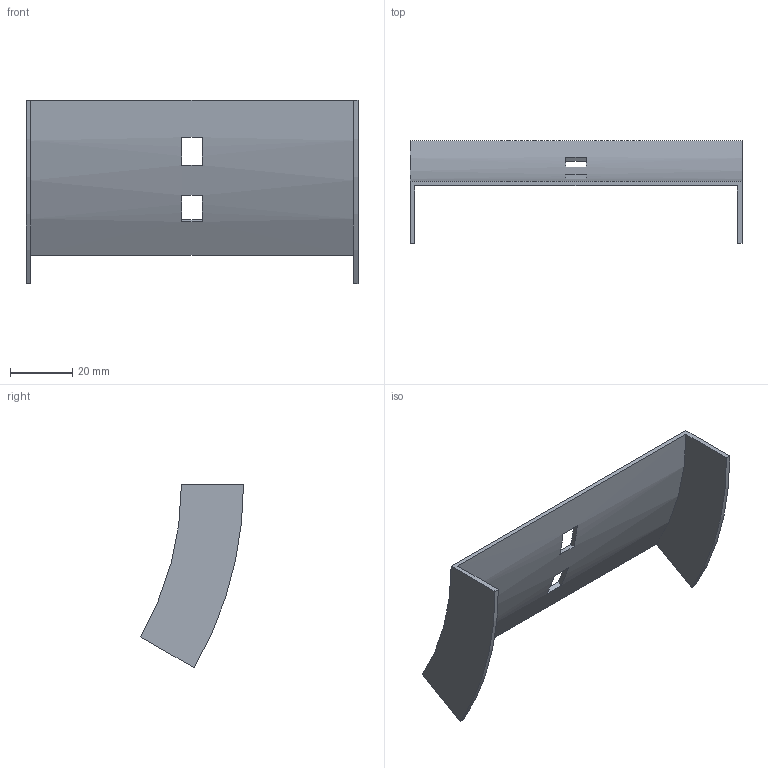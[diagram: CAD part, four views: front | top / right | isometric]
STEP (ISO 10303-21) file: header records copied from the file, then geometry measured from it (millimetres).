
FILE_DESCRIPTION (( 'STEP AP214' ), '1' );
FILE_NAME ('32N1R100.step', '2025-02-21T09:22:15', ( '' ), ( '' ), 'SwSTEP 2.0', 'SolidWorks 2023', '' );
FILE_SCHEMA (( 'AUTOMOTIVE_DESIGN' ));
Length unit declared in the file: millimetre
Products named in the file (1): 32N1R100
Bounding box: 107 x 33.2 x 59.25 mm (x, y, z)
Volume: 11337.5 mm3; surface area: 15828 mm2
Topology: 1 solids, 1 shells, 18 faces, 48 edges, 32 vertices
Faces by surface type: plane 14, cylinder 4
Entity records: 599 total; most frequent: DIRECTION 102, CARTESIAN_POINT 99, ORIENTED_EDGE 96, EDGE_CURVE 48, AXIS2_PLACEMENT_3D 35, VECTOR 32, LINE 32, VERTEX_POINT 32
